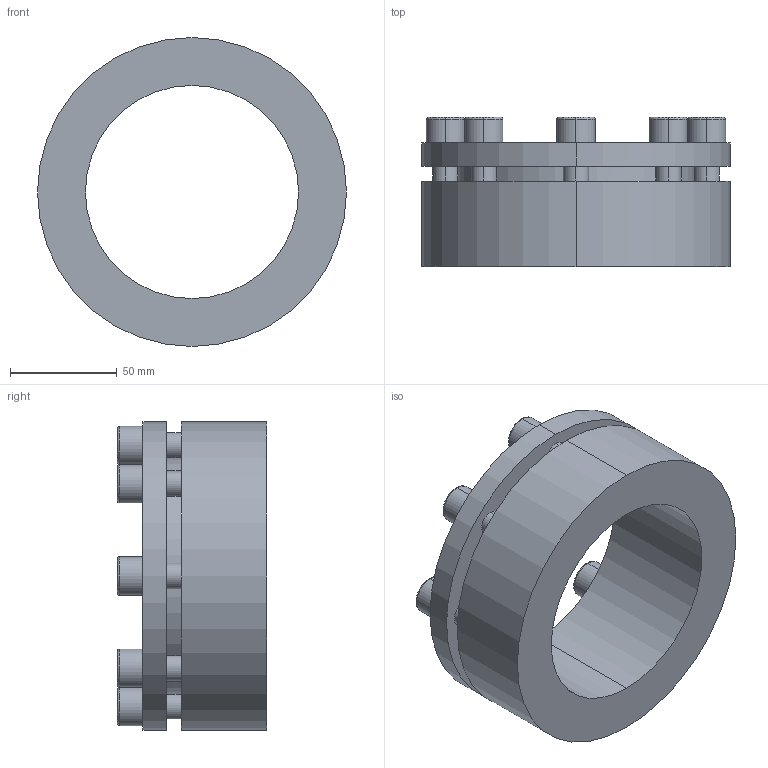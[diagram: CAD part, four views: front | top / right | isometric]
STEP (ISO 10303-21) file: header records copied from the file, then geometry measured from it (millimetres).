
FILE_DESCRIPTION (( 'STEP AP203' ), '1' );
FILE_NAME ('PL-H1 100-145.STEP', '2021-10-23T00:57:44', ( '' ), ( '' ), 'SwSTEP 2.0', 'SolidWorks 2018', '' );
FILE_SCHEMA (( 'CONFIG_CONTROL_DESIGN' ));
Length unit declared in the file: millimetre
Products named in the file (1): PL-H1 100-145
Bounding box: 145 x 70 x 145 mm (x, y, z)
Volume: 480850.4 mm3; surface area: 81720.8 mm2
Topology: 1 solids, 1 shells, 135 faces, 329 edges, 214 vertices
Faces by surface type: plane 68, cylinder 51, torus 16
Entity records: 4070 total; most frequent: DIRECTION 735, CARTESIAN_POINT 679, ORIENTED_EDGE 658, EDGE_CURVE 329, AXIS2_PLACEMENT_3D 270, VERTEX_POINT 214, VECTOR 195, LINE 195
